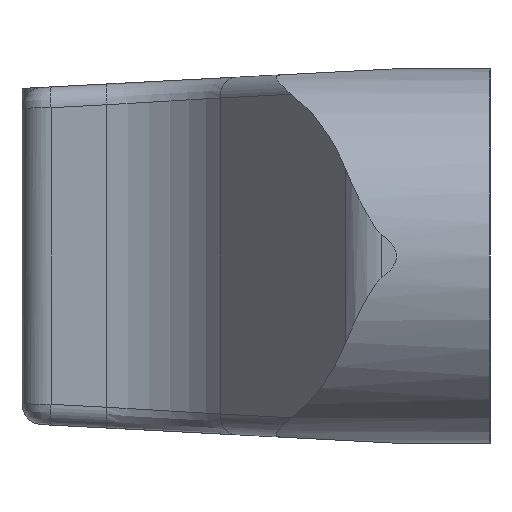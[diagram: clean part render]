
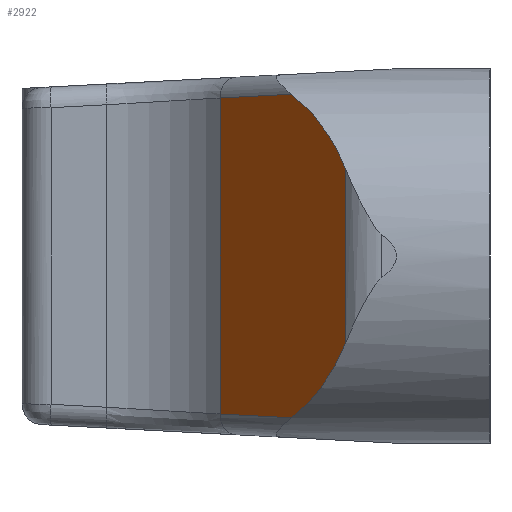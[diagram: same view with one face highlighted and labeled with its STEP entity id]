
A CAD part, left-side view. The second image highlights one B-rep face of the part: STEP entity #2922.
In plain terms, the highlighted planar face has unit normal (-0.602, 0.798, 0).
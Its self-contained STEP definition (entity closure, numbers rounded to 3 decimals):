
#34 = LINE ( 'NONE', #171, #1416 ) ;
#51 = EDGE_CURVE ( 'NONE', #3780, #3039, #5486, .T. ) ;
#171 = CARTESIAN_POINT ( 'NONE',  ( 9.013, 8.458, 7.597 ) ) ;
#384 = ORIENTED_EDGE ( 'NONE', *, *, #5074, .F. ) ;
#408 = EDGE_CURVE ( 'NONE', #2052, #1314, #3930, .T. ) ;
#719 = CARTESIAN_POINT ( 'NONE',  ( 9.037, 8.476, 9. ) ) ;
#1073 = CARTESIAN_POINT ( 'NONE',  ( 4.47, 5.032, -7.777 ) ) ;
#1177 =( BOUNDED_CURVE ( )  B_SPLINE_CURVE ( 3, ( #4707, #4662, #5221, #2058 ),
 .UNSPECIFIED., .F., .F. ) 
 B_SPLINE_CURVE_WITH_KNOTS ( ( 4, 4 ),
 ( 5.24, 5.802 ),
 .UNSPECIFIED. ) 
 CURVE ( )  GEOMETRIC_REPRESENTATION_ITEM ( )  RATIONAL_B_SPLINE_CURVE ( ( 1., 0.974, 0.974, 1. ) ) 
 REPRESENTATION_ITEM ( '' )  );
#1244 = DIRECTION ( 'NONE',  ( 0.798, 0.602, 0. ) ) ;
#1314 = VERTEX_POINT ( 'NONE', #1748 ) ;
#1398 = VECTOR ( 'NONE', #4421, 1000. ) ;
#1416 = VECTOR ( 'NONE', #4401, 1000. ) ;
#1610 = CARTESIAN_POINT ( 'NONE',  ( 1.021, 2.431, 9. ) ) ;
#1621 = CARTESIAN_POINT ( 'NONE',  ( 1.021, 2.431, 4.163 ) ) ;
#1653 = ORIENTED_EDGE ( 'NONE', *, *, #51, .F. ) ;
#1748 = CARTESIAN_POINT ( 'NONE',  ( 9.037, 8.476, -7.596 ) ) ;
#1929 = EDGE_CURVE ( 'NONE', #4593, #1314, #2807, .T. ) ;
#2052 = VERTEX_POINT ( 'NONE', #3391 ) ;
#2058 = CARTESIAN_POINT ( 'NONE',  ( 1.021, 2.431, 4.163 ) ) ;
#2219 = DIRECTION ( 'NONE',  ( 0., 0., -1. ) ) ;
#2324 = AXIS2_PLACEMENT_3D ( 'NONE', #719, #4402, #1244 ) ;
#2510 = VECTOR ( 'NONE', #6190, 1000. ) ;
#2685 = VECTOR ( 'NONE', #2219, 1000. ) ;
#2737 = CARTESIAN_POINT ( 'NONE',  ( 4.47, 5.032, 7.777 ) ) ;
#2807 = LINE ( 'NONE', #4663, #1398 ) ;
#2922 = ADVANCED_FACE ( 'NONE', ( #3032 ), #4913, .F. ) ;
#3032 = FACE_OUTER_BOUND ( 'NONE', #5064, .T. ) ;
#3039 = VERTEX_POINT ( 'NONE', #4578 ) ;
#3062 =( BOUNDED_CURVE ( )  B_SPLINE_CURVE ( 3, ( #6770, #3690, #4226, #1073 ),
 .UNSPECIFIED., .F., .F. ) 
 B_SPLINE_CURVE_WITH_KNOTS ( ( 4, 4 ),
 ( 0.481, 1.043 ),
 .UNSPECIFIED. ) 
 CURVE ( )  GEOMETRIC_REPRESENTATION_ITEM ( )  RATIONAL_B_SPLINE_CURVE ( ( 1., 0.974, 0.974, 1. ) ) 
 REPRESENTATION_ITEM ( '' )  );
#3391 = CARTESIAN_POINT ( 'NONE',  ( 9.037, 8.476, 7.596 ) ) ;
#3430 = ORIENTED_EDGE ( 'NONE', *, *, #3857, .F. ) ;
#3571 = CARTESIAN_POINT ( 'NONE',  ( 4.47, 5.032, -7.777 ) ) ;
#3670 = ORIENTED_EDGE ( 'NONE', *, *, #1929, .F. ) ;
#3690 = CARTESIAN_POINT ( 'NONE',  ( 1.812, 3.028, -5.679 ) ) ;
#3780 = VERTEX_POINT ( 'NONE', #1621 ) ;
#3807 = ORIENTED_EDGE ( 'NONE', *, *, #6299, .F. ) ;
#3857 = EDGE_CURVE ( 'NONE', #3039, #4593, #3062, .T. ) ;
#3930 = LINE ( 'NONE', #4856, #2510 ) ;
#4226 = CARTESIAN_POINT ( 'NONE',  ( 2.992, 3.918, -6.916 ) ) ;
#4401 = DIRECTION ( 'NONE',  ( -0.798, -0.602, 0.032 ) ) ;
#4402 = DIRECTION ( 'NONE',  ( 0.602, -0.798, 0. ) ) ;
#4421 = DIRECTION ( 'NONE',  ( 0.798, 0.602, 0.032 ) ) ;
#4578 = CARTESIAN_POINT ( 'NONE',  ( 1.021, 2.431, -4.163 ) ) ;
#4593 = VERTEX_POINT ( 'NONE', #3571 ) ;
#4662 = CARTESIAN_POINT ( 'NONE',  ( 2.992, 3.918, 6.916 ) ) ;
#4663 = CARTESIAN_POINT ( 'NONE',  ( 6.507, 6.568, -7.696 ) ) ;
#4707 = CARTESIAN_POINT ( 'NONE',  ( 4.47, 5.032, 7.777 ) ) ;
#4856 = CARTESIAN_POINT ( 'NONE',  ( 9.037, 8.476, 9. ) ) ;
#4913 = PLANE ( 'NONE',  #2324 ) ;
#5064 = EDGE_LOOP ( 'NONE', ( #3807, #384, #5087, #3670, #3430, #1653 ) ) ;
#5074 = EDGE_CURVE ( 'NONE', #2052, #6126, #34, .T. ) ;
#5087 = ORIENTED_EDGE ( 'NONE', *, *, #408, .T. ) ;
#5221 = CARTESIAN_POINT ( 'NONE',  ( 1.812, 3.028, 5.679 ) ) ;
#5486 = LINE ( 'NONE', #1610, #2685 ) ;
#6126 = VERTEX_POINT ( 'NONE', #2737 ) ;
#6190 = DIRECTION ( 'NONE',  ( 0., 0., -1. ) ) ;
#6299 = EDGE_CURVE ( 'NONE', #6126, #3780, #1177, .T. ) ;
#6770 = CARTESIAN_POINT ( 'NONE',  ( 1.021, 2.431, -4.163 ) ) ;
